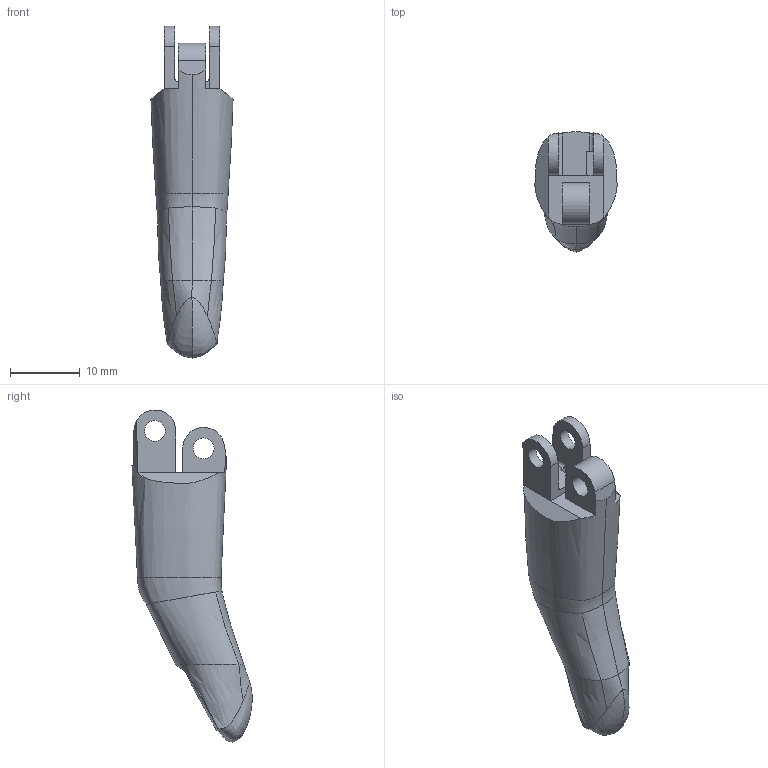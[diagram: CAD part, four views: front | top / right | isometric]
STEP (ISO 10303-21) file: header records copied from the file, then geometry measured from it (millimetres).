
FILE_DESCRIPTION(/* description */ (''),/* implementation_level */ '2;1');
FILE_NAME(/* name */ 'pointer tip.stp',/* time_stamp */ '2023-08-14T21:49:16+03:00',/* author */ ('mosta'),/* organization */ (''),/* preprocessor_version */ 'ST-DEVELOPER v19.2',/* originating_system */ 'Autodesk Inventor 2024',/* authorisation */ '');
FILE_SCHEMA (('AUTOMOTIVE_DESIGN { 1 0 10303 214 3 1 1 }'));
Length unit declared in the file: millimetre
Products named in the file (1): pointer tip
Bounding box: 11.8 x 17.24 x 47.68 mm (x, y, z)
Volume: 3660.7 mm3; surface area: 1823.6 mm2
Topology: 1 solids, 1 shells, 50 faces, 156 edges, 106 vertices
Faces by surface type: bspline 22, plane 20, cylinder 8
Full cylindrical faces by diameter (mm): 3 x3
Entity records: 3652 total; most frequent: CARTESIAN_POINT 2427, ORIENTED_EDGE 308, EDGE_CURVE 154, DIRECTION 140, VERTEX_POINT 106, B_SPLINE_CURVE_WITH_KNOTS 88, EDGE_LOOP 56, FACE_OUTER_BOUND 50
